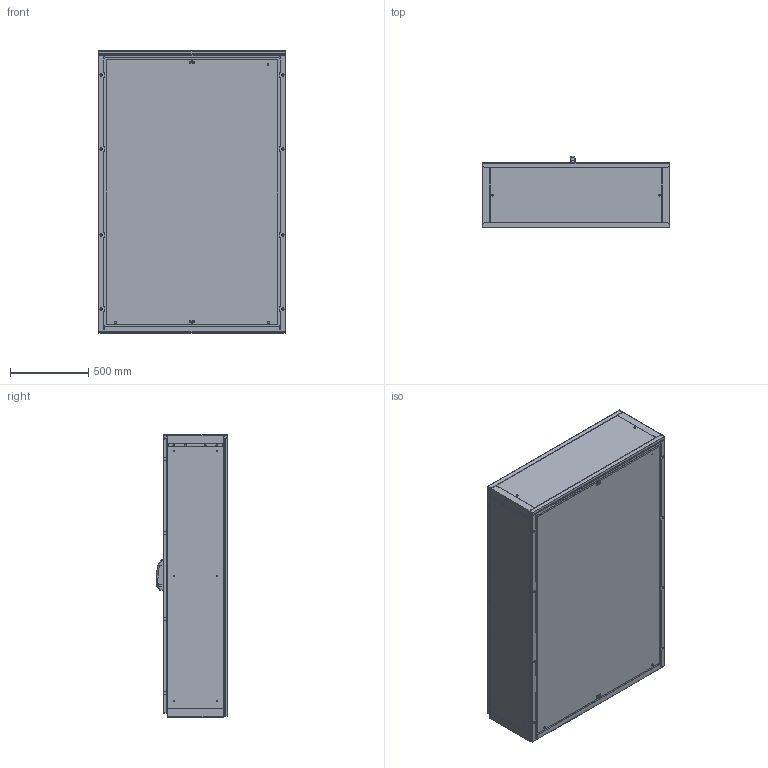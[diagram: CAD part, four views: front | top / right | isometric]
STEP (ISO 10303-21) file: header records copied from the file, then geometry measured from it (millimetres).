
FILE_DESCRIPTION (( 'STEP AP203' ), '1' );
FILE_NAME ('EMOX-121804PRX.STEP', '2025-06-23T14:49:47', ( '' ), ( '' ), 'SwSTEP 2.0', 'SolidWorks 2022', '' );
FILE_SCHEMA (( 'CONFIG_CONTROL_DESIGN' ));
Length unit declared in the file: millimetre
Products named in the file (10): AR_EMOX_inox_Retro_singolo_1200x1800; AR_EMOX_inox_Porta_CB_2.0_1200x1800_ANT_DX; AR_EMOX_inox_montaggio_porta_IB_2.0_1200x1800_ANT_DX; AR_EMOX_inox_Piastra_frontale_3.0_1200x1800; EMOX-121804PRX; AR_EMOX_inox_struttura_1200x1800x0400; AR_EMOX_inox_Tegolino_1200x0050; AR_EMOX_inox_Tegolino_1200x0100; AR_EMOX_inox_Porta_IB_2.0_1200x1800_ANT; AR_ENUX_nuova_maniglia_mesan
Assembly tree (13 placements, depth 3):
  EMOX-121804PRX
    AR_EMOX_inox_struttura_1200x1800x0400
    AR_EMOX_inox_Retro_singolo_1200x1800
    AR_EMOX_inox_Piastra_frontale_3.0_1200x1800
    AR_EMOX_inox_montaggio_porta_IB_2.0_1200x1800_ANT_DX
      AR_EMOX_inox_Porta_IB_2.0_1200x1800_ANT
      AR_ENUX_nuova_maniglia_mesan
    AR_EMOX_inox_Porta_CB_2.0_1200x1800_ANT_DX
    AR_EMOX_inox_Tegolino_1200x0050  x4
    AR_EMOX_inox_Tegolino_1200x0100  x2
Bounding box: 1200 x 456.5 x 1809 mm (x, y, z)
Volume: 21024344.6 mm3; surface area: 22125502.1 mm2
Topology: 12 solids, 12 shells, 3442 faces, 9500 edges, 6100 vertices
Faces by surface type: plane 1792, cylinder 1467, cone 68, torus 59, bspline 29, sphere 27
Entity records: 109477 total; most frequent: CARTESIAN_POINT 21808, DIRECTION 18146, ORIENTED_EDGE 17754, EDGE_CURVE 8877, AXIS2_PLACEMENT_3D 6212, VERTEX_POINT 5780, VECTOR 5722, LINE 5722
